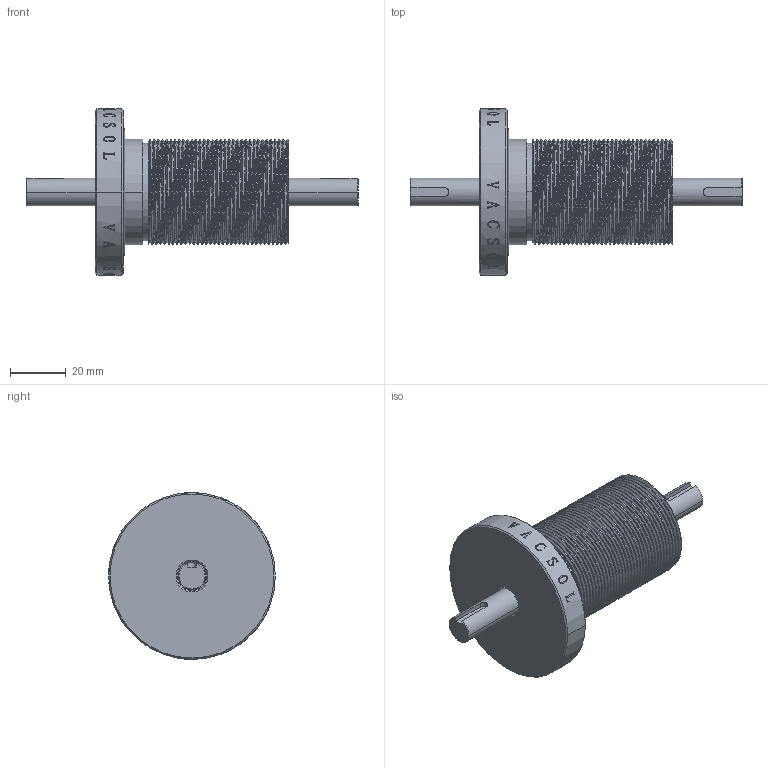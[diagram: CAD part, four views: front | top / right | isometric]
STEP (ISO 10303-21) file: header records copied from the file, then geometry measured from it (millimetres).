
FILE_DESCRIPTION (( 'STEP AP214' ), '1' );
FILE_NAME ('m10.STEP', '2010-08-26T12:55:33', ( 'user' ), ( '' ), 'SwSTEP 2.0', 'SolidWorks 2007', '' );
FILE_SCHEMA (( 'AUTOMOTIVE_DESIGN' ));
Length unit declared in the file: millimetre
Products named in the file (1): m10
Bounding box: 119.5 x 60 x 60 mm (x, y, z)
Volume: 95996.1 mm3; surface area: 23549.5 mm2
Topology: 2 solids, 2 shells, 453 faces, 1238 edges, 820 vertices
Faces by surface type: bspline 258, cylinder 114, plane 63, cone 14, torus 4
Entity records: 46743 total; most frequent: CARTESIAN_POINT 34378, ORIENTED_EDGE 2476, EDGE_CURVE 1238, VERTEX_POINT 820, B_SPLINE_CURVE_WITH_KNOTS 814, DIRECTION 796, EDGE_LOOP 486, ADVANCED_FACE 453
